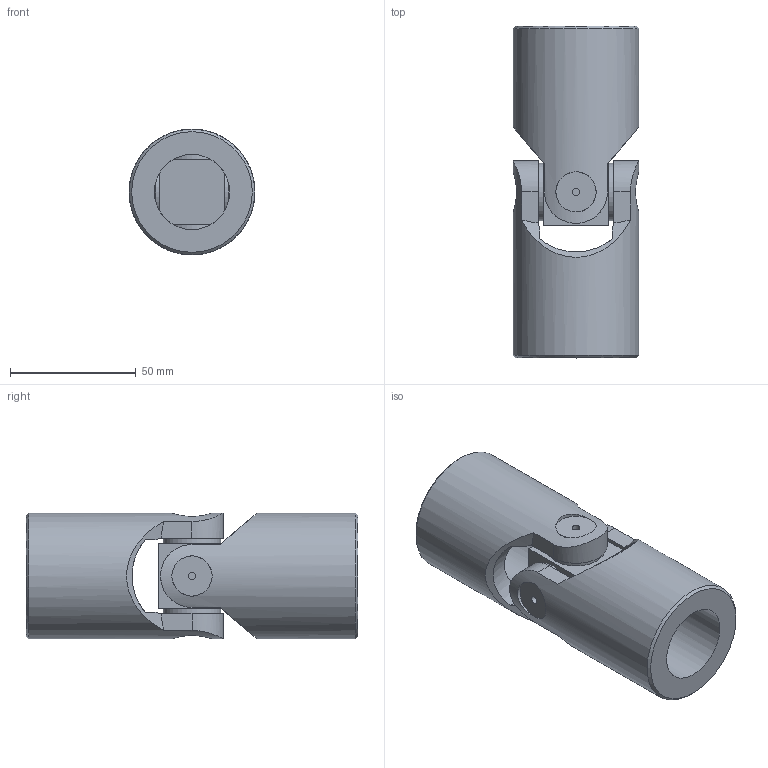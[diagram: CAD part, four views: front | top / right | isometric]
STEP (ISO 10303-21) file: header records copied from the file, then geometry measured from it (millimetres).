
FILE_DESCRIPTION(/* description */ (''),/* implementation_level */ '2;1');
FILE_NAME(/* name */ '\\SRV2016\Societa\Stefano\Disegni 3D\Dis. Clienti\0000Catalogo 3D\01Singoli G-GB\6GB-00_SGBS3000.stp',/* time_stamp */ '2021-11-10T14:48:10+01:00',/* author */ ('acquisti'),/* organization */ (''),/* preprocessor_version */ 'ST-DEVELOPER v15.6',/* originating_system */ 'Autodesk Inventor 2015',/* authorisation */ '');
FILE_SCHEMA (('AUTOMOTIVE_DESIGN { 1 0 10303 214 3 1 1 }'));
Length unit declared in the file: millimetre
Products named in the file (3): 5G SFE; 6GB MOS; Assieme9
Assembly tree (3 placements, depth 2):
  Assieme9
    5G SFE
    6GB MOS  x2
Bounding box: 50 x 132 x 50 mm (x, y, z)
Volume: 160646.8 mm3; surface area: 39937.3 mm2
Topology: 3 solids, 3 shells, 74 faces, 176 edges, 116 vertices
Faces by surface type: plane 36, cylinder 20, cone 10, torus 8
Full cylindrical faces by diameter (mm): 3 x4, 16 x4, 23 x4, 30 x2, 50 x2
Entity records: 1477 total; most frequent: CARTESIAN_POINT 493, DIRECTION 190, ORIENTED_EDGE 176, EDGE_CURVE 88, AXIS2_PLACEMENT_3D 83, VERTEX_POINT 66, EDGE_LOOP 64, FACE_OUTER_BOUND 44
